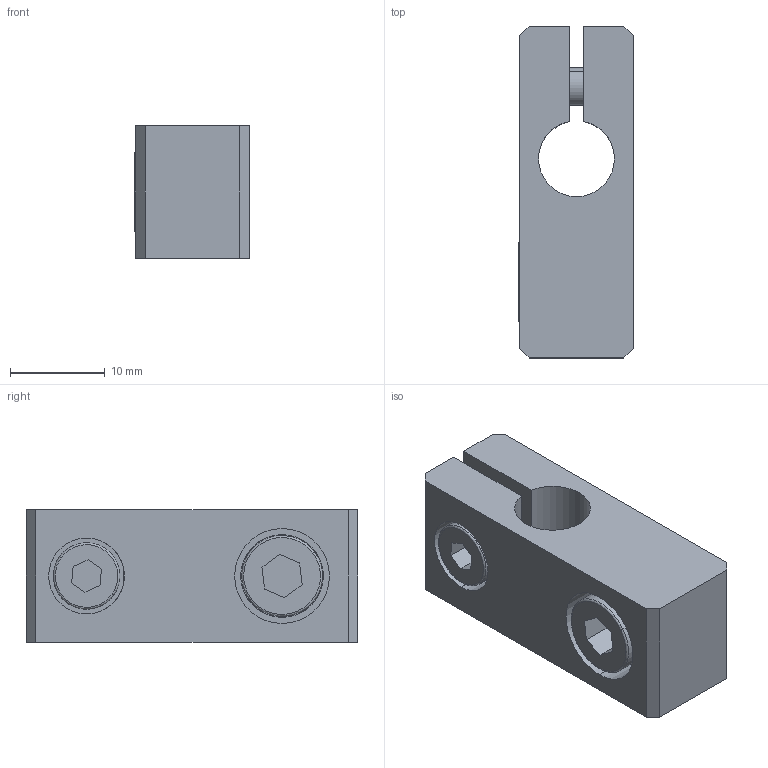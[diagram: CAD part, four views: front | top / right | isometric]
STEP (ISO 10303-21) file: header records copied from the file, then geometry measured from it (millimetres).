
FILE_DESCRIPTION (( 'STEP AP214' ), '1' );
FILE_NAME ('SMBH1-8M5.STEP', '2019-11-07T07:12:01', ( '微软用户' ), ( '微软中国' ), 'SwSTEP 2.0', 'SolidWorks 2016', '' );
FILE_SCHEMA (( 'AUTOMOTIVE_DESIGN' ));
Length unit declared in the file: millimetre
Products named in the file (1): SMBH1-8M5
Bounding box: 12.1 x 35 x 14 mm (x, y, z)
Volume: 4636 mm3; surface area: 3808.3 mm2
Topology: 5 solids, 5 shells, 455 faces, 1308 edges, 864 vertices
Faces by surface type: plane 419, cylinder 28, cone 4, bspline 4
Entity records: 20306 total; most frequent: CARTESIAN_POINT 2896, DIRECTION 2632, ORIENTED_EDGE 2616, EDGE_CURVE 1308, AXIS2_PLACEMENT_3D 881, LINE 870, VECTOR 870, VERTEX_POINT 864
